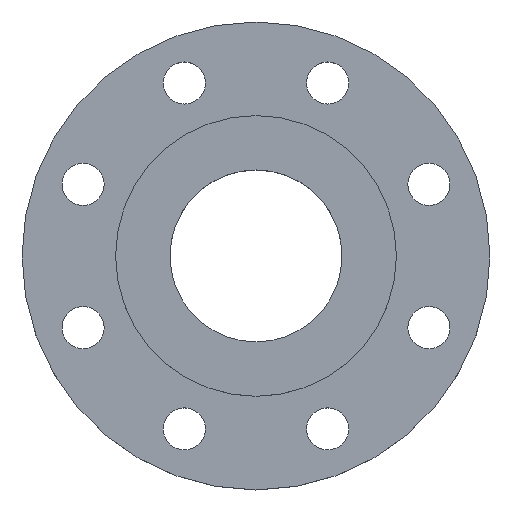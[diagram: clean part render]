
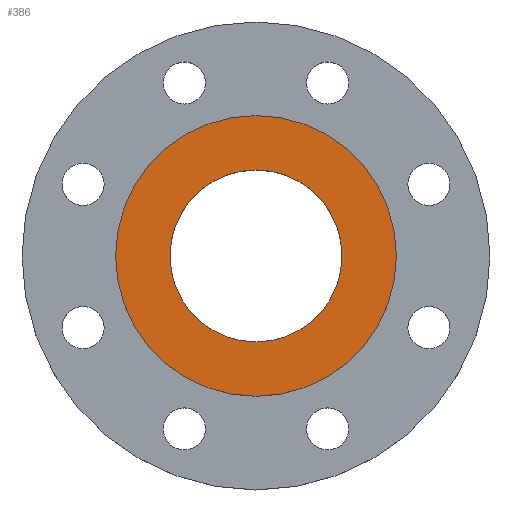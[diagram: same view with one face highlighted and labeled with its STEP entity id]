
A CAD part, top view. The second image highlights one B-rep face of the part: STEP entity #386.
In plain terms, the highlighted planar face has unit normal (0, 0, 1).
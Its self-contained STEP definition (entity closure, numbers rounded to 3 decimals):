
#23 = EDGE_CURVE ( 'NONE', #728, #794, #492, .T. ) ;
#46 = AXIS2_PLACEMENT_3D ( 'NONE', #361, #360, #359 ) ;
#102 = CARTESIAN_POINT ( 'NONE',  ( -60., 0., 0. ) ) ;
#166 = AXIS2_PLACEMENT_3D ( 'NONE', #462, #474, #450 ) ;
#272 = CARTESIAN_POINT ( 'NONE',  ( -36.753, 0., 0. ) ) ;
#285 = AXIS2_PLACEMENT_3D ( 'NONE', #486, #480, #479 ) ;
#315 = CARTESIAN_POINT ( 'NONE',  ( 60., 0., 0. ) ) ;
#332 = DIRECTION ( 'NONE',  ( -1., 0., 0. ) ) ;
#333 = DIRECTION ( 'NONE',  ( 0., 0., -1. ) ) ;
#334 = CARTESIAN_POINT ( 'NONE',  ( 0., 0., 0. ) ) ;
#345 = CARTESIAN_POINT ( 'NONE',  ( 36.753, 0., 0. ) ) ;
#359 = DIRECTION ( 'NONE',  ( -1., 0., 0. ) ) ;
#360 = DIRECTION ( 'NONE',  ( 0., 0., -1. ) ) ;
#361 = CARTESIAN_POINT ( 'NONE',  ( 0., 0., 0. ) ) ;
#386 = ADVANCED_FACE ( 'NONE', ( #470, #688 ), #472, .T. ) ;
#416 = EDGE_CURVE ( 'NONE', #794, #728, #544, .T. ) ;
#450 = DIRECTION ( 'NONE',  ( 1., 0., 0. ) ) ;
#462 = CARTESIAN_POINT ( 'NONE',  ( 0., 0., 0. ) ) ;
#470 = FACE_BOUND ( 'NONE', #977, .T. ) ;
#472 = PLANE ( 'NONE',  #166 ) ;
#474 = DIRECTION ( 'NONE',  ( 0., 0., 1. ) ) ;
#479 = DIRECTION ( 'NONE',  ( 1., 0., 0. ) ) ;
#480 = DIRECTION ( 'NONE',  ( 0., 0., 1. ) ) ;
#486 = CARTESIAN_POINT ( 'NONE',  ( 0., 0., 0. ) ) ;
#492 = CIRCLE ( 'NONE', #566, 36.753 ) ;
#544 = CIRCLE ( 'NONE', #285, 36.753 ) ;
#564 = AXIS2_PLACEMENT_3D ( 'NONE', #334, #333, #332 ) ;
#566 = AXIS2_PLACEMENT_3D ( 'NONE', #571, #572, #575 ) ;
#571 = CARTESIAN_POINT ( 'NONE',  ( 0., 0., 0. ) ) ;
#572 = DIRECTION ( 'NONE',  ( 0., 0., 1. ) ) ;
#575 = DIRECTION ( 'NONE',  ( 1., 0., 0. ) ) ;
#589 = CIRCLE ( 'NONE', #564, 60. ) ;
#596 = CIRCLE ( 'NONE', #46, 60. ) ;
#688 = FACE_OUTER_BOUND ( 'NONE', #804, .T. ) ;
#710 = EDGE_CURVE ( 'NONE', #989, #748, #596, .T. ) ;
#728 = VERTEX_POINT ( 'NONE', #345 ) ;
#734 = EDGE_CURVE ( 'NONE', #748, #989, #589, .T. ) ;
#748 = VERTEX_POINT ( 'NONE', #315 ) ;
#794 = VERTEX_POINT ( 'NONE', #272 ) ;
#804 = EDGE_LOOP ( 'NONE', ( #884, #885 ) ) ;
#882 = ORIENTED_EDGE ( 'NONE', *, *, #23, .F. ) ;
#883 = ORIENTED_EDGE ( 'NONE', *, *, #416, .F. ) ;
#884 = ORIENTED_EDGE ( 'NONE', *, *, #710, .F. ) ;
#885 = ORIENTED_EDGE ( 'NONE', *, *, #734, .F. ) ;
#977 = EDGE_LOOP ( 'NONE', ( #882, #883 ) ) ;
#989 = VERTEX_POINT ( 'NONE', #102 ) ;
